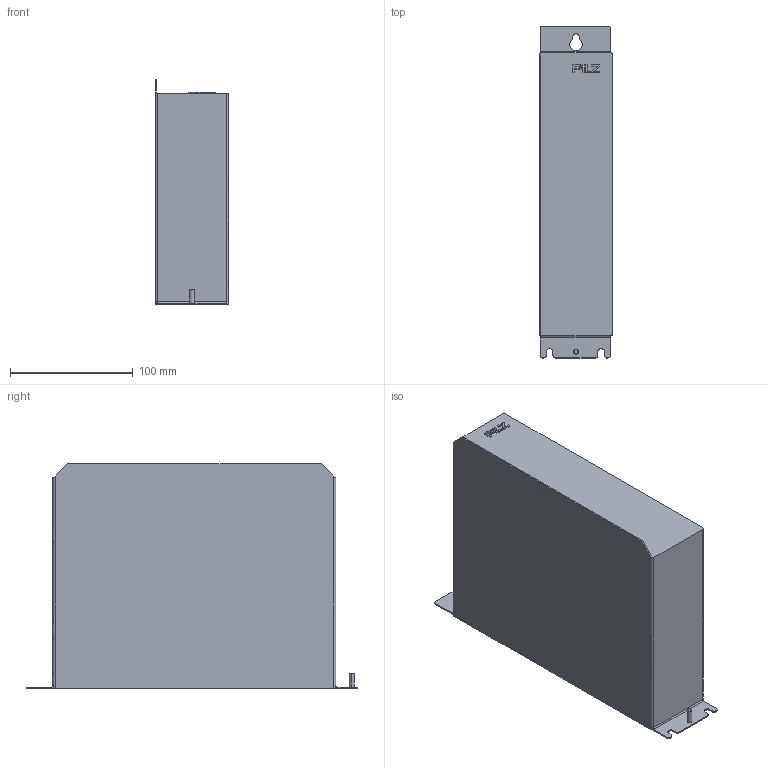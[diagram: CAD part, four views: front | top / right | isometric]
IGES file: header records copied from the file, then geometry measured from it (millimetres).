
Start section:  PTC IGES file: 2020952
Global section: file name: 2020952; native system: Creo Parametric by Parametric Technology Corporation; preprocessor: 2015110; author: lwegerer; organization: Unknown; date: 20161007.071207; units: millimetre
Bounding box: 60 x 270.6 x 183 mm (x, y, z)
Surface area: 136336.8 mm2 (no closed solid volume)
Topology: 0 solids, 0 shells, 88 faces, 464 edges, 464 vertices
Faces by surface type: bspline 62, revolution 26
